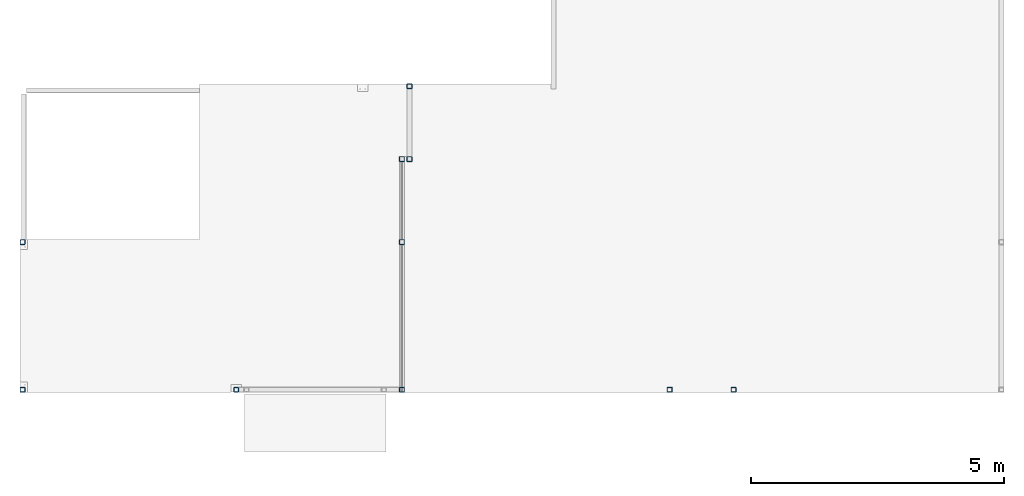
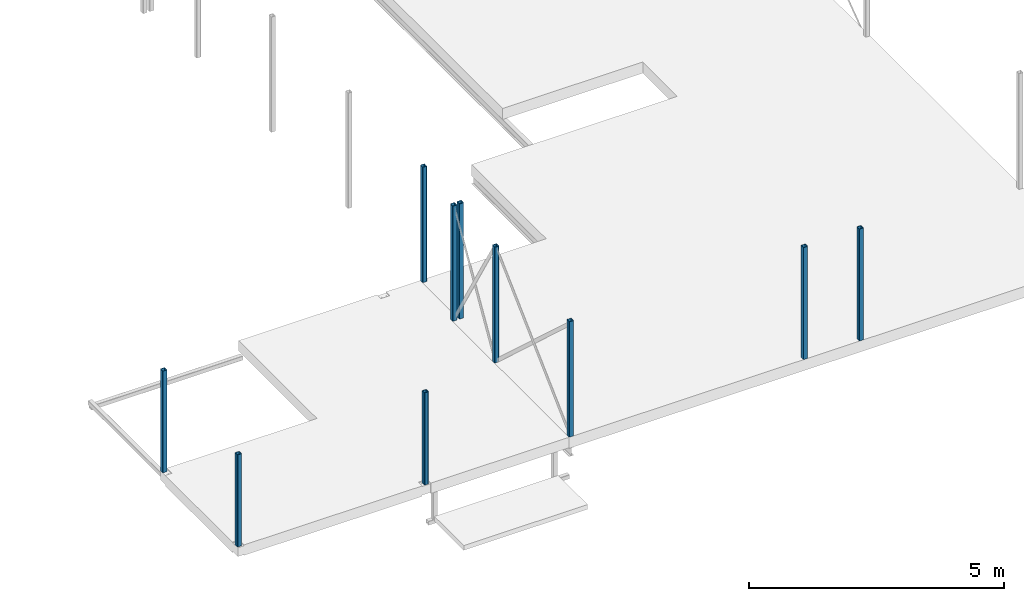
# One storey, part 1 of 7: 10 columns.
"""IFC2X3 building model written with IfcOpenShell, lengths in millimetres."""

import ifcopenshell
import ifcopenshell.guid

model = None  # the IFC model being written
_history = None  # IfcOwnerHistory: only IFC2X3 demands one
_inside = {}  # id of a spatial element -> (the spatial element, [elements in it])
_under = {}  # id of a project, library or spatial element -> (it, [spatial elements below it])
_declared = {}  # id of a project -> (the project, [libraries it declares])
_typed = {}  # id of a type object -> (the type object, [elements of that type])
_made_of = {}  # id of a material, layer set ... -> (it, [elements and type objects made of it])


def new_model(schema):
    """Start an empty IFC model of exactly this schema.

    Asked for "IFC4X3", IfcOpenShell would pick the latest addendum, in which some entities
    have other attributes; the version numbers below select the first issue.
    IFC2X3 requires an IfcOwnerHistory on every rooted entity: one is made here for all.
    """
    global model, _history
    if schema == "IFC4X3":
        model = ifcopenshell.file(schema_version=(4, 3, 0, 0))
    else:
        model = ifcopenshell.file(schema=schema)
    _inside.clear()
    _under.clear()
    _declared.clear()
    _typed.clear()
    _made_of.clear()
    _history = None
    if model.schema == "IFC2X3":
        org = make("IfcOrganization", Name="unknown")
        user = make(
            "IfcPersonAndOrganization",
            ThePerson=make("IfcPerson", FamilyName="unknown"),
            TheOrganization=org,
        )
        app = make(
            "IfcApplication",
            ApplicationDeveloper=org,
            Version="unknown",
            ApplicationFullName="unknown",
            ApplicationIdentifier="unknown",
        )
        _history = make(
            "IfcOwnerHistory",
            OwningUser=user,
            OwningApplication=app,
            ChangeAction="ADDED",
            CreationDate=0,
        )
    return model


def make(cls, **values):
    """One entity of the class cls with the attributes given. An attribute that is None is left unset."""
    return model.create_entity(
        cls, **{name: value for name, value in values.items() if value is not None}
    )


def entity(cls, *values):
    """Any entity or typed value of the class cls, its attributes in the order of the schema. None: left unset."""
    e = model.create_entity(cls)
    for i, value in enumerate(values):
        if value is not None:
            e[i] = value
    return e


def rooted(cls, **values):
    """An entity with a GlobalId (a new one), such as an element, a storey or a relation."""
    return make(cls, GlobalId=ifcopenshell.guid.new(), OwnerHistory=_history, **values)


def si_unit(unit_type, name, prefix=None):
    """IfcSIUnit, for example si_unit("LENGTHUNIT", "METRE", prefix="MILLI")."""
    return make("IfcSIUnit", UnitType=unit_type, Prefix=prefix, Name=name)


def converted_unit(unit_type, name, factor, base, dimensions=None, offset=None):
    """IfcConversionBasedUnit, such as the inch: factor (a typed value) times the base unit."""
    return make(
        "IfcConversionBasedUnit"
        if offset is None
        else "IfcConversionBasedUnitWithOffset",
        ConversionOffset=offset,
        Dimensions=None
        if dimensions is None
        else entity("IfcDimensionalExponents", *dimensions),
        UnitType=unit_type,
        Name=name,
        ConversionFactor=make(
            "IfcMeasureWithUnit", ValueComponent=factor, UnitComponent=base
        ),
    )


def derived_unit(unit_type, elements):
    """IfcDerivedUnit: a product of units, each with its exponent."""
    return make(
        "IfcDerivedUnit",
        Elements=[
            make("IfcDerivedUnitElement", Unit=unit, Exponent=power)
            for unit, power in elements
        ],
        UnitType=unit_type,
    )


def assignment(units):
    """IfcUnitAssignment: the units of a project."""
    return None if units is None else make("IfcUnitAssignment", Units=units)


def point(xyz):
    """IfcCartesianPoint."""
    return None if xyz is None else make("IfcCartesianPoint", Coordinates=xyz)


def direction(xyz):
    """IfcDirection."""
    return None if xyz is None else make("IfcDirection", DirectionRatios=xyz)


def frame(location, z_axis=None, x_axis=None):
    """IfcAxis2Placement3D, a coordinate frame: its origin and axes. An axis left out is left unset."""
    return make(
        "IfcAxis2Placement3D",
        Location=point(location),
        Axis=direction(z_axis),
        RefDirection=direction(x_axis),
    )


def frame_2d(location, x_axis=None):
    """IfcAxis2Placement2D, a coordinate frame in the plane: its origin and x axis."""
    return make(
        "IfcAxis2Placement2D", Location=point(location), RefDirection=direction(x_axis)
    )


def origin():
    """The frame at (0, 0, 0) with its axes left unset."""
    return frame((0.0, 0.0, 0.0))


def place(relative_to, where):
    """IfcLocalPlacement: puts the frame where relative to a parent placement (None: the world)."""
    return make(
        "IfcLocalPlacement", PlacementRelTo=relative_to, RelativePlacement=where
    )


def context(
    kind, dimensions, precision=None, world=None, true_north=None, identifier=None
):
    """IfcGeometricRepresentationContext, for example the 3D "Model" context."""
    return make(
        "IfcGeometricRepresentationContext",
        ContextIdentifier=identifier,
        ContextType=kind,
        CoordinateSpaceDimension=dimensions,
        Precision=precision,
        WorldCoordinateSystem=world,
        TrueNorth=true_north,
    )


def subcontext(parent, identifier, kind, view, scale=None):
    """IfcGeometricRepresentationSubContext, for example "Body" below "Model"."""
    return make(
        "IfcGeometricRepresentationSubContext",
        ContextIdentifier=identifier,
        ContextType=kind,
        ParentContext=parent,
        TargetScale=scale,
        TargetView=view,
    )


def project(units=None, contexts=None):
    """IfcProject with its units and contexts."""
    return rooted(
        "IfcProject",
        Name="project",
        RepresentationContexts=contexts,
        UnitsInContext=assignment(units),
    )


def spatial(cls, under=None, at=None, **own):
    """A site, building, storey or space (cls), placed at a placement, below another one or the project."""
    s = rooted(cls, ObjectPlacement=at, **own)
    if under is not None:
        _under.setdefault(under.id(), (under, []))[1].append(s)
    return s


def polyline(points):
    """IfcPolyline through the points."""
    return make("IfcPolyline", Points=[point(p) for p in points])


def circle_curve(where, radius):
    """IfcCircle in the frame where."""
    return make("IfcCircle", Position=where, Radius=radius)


def parameter(value):
    """IfcParameterValue: where a trimmed curve begins or ends, as a parameter of its basis curve."""
    return model.create_entity("IfcParameterValue", value)


def trimmed(basis, trim1, trim2, sense, master):
    """IfcTrimmedCurve: the piece of a basis curve between two trims."""
    return make(
        "IfcTrimmedCurve",
        BasisCurve=basis,
        Trim1=trim1,
        Trim2=trim2,
        SenseAgreement=sense,
        MasterRepresentation=master,
    )


def segment(curve, same_sense, transition):
    """IfcCompositeCurveSegment."""
    return make(
        "IfcCompositeCurveSegment",
        Transition=transition,
        SameSense=same_sense,
        ParentCurve=curve,
    )


def composite_curve(segments, self_intersect=None):
    """IfcCompositeCurve: segments joined end to end."""
    return make("IfcCompositeCurve", Segments=segments, SelfIntersect=self_intersect)


def outline(outer, holes=None, kind="AREA"):
    """IfcArbitraryClosedProfileDef: a profile drawn as a closed curve; with holes, ...WithVoids."""
    if holes is None:
        return make("IfcArbitraryClosedProfileDef", ProfileType=kind, OuterCurve=outer)
    return make(
        "IfcArbitraryProfileDefWithVoids",
        ProfileType=kind,
        OuterCurve=outer,
        InnerCurves=holes,
    )


def extrude(swept, where, along, depth):
    """IfcExtrudedAreaSolid: the profile swept, set in the frame where, extruded along a direction by depth."""
    return make(
        "IfcExtrudedAreaSolid",
        SweptArea=swept,
        Position=where,
        ExtrudedDirection=direction(along),
        Depth=depth,
    )


def shape(context_of_items, identifier, shape_type, items):
    """IfcShapeRepresentation: the items that make up one representation, for example the "Body"."""
    return make(
        "IfcShapeRepresentation",
        ContextOfItems=context_of_items,
        RepresentationIdentifier=identifier,
        RepresentationType=shape_type,
        Items=items,
    )


def source(mapping_origin, context_of_items, identifier, shape_type, items):
    """IfcRepresentationMap: a shape defined once, which mapped items show again and again."""
    return make(
        "IfcRepresentationMap",
        MappingOrigin=mapping_origin,
        MappedRepresentation=shape(context_of_items, identifier, shape_type, items),
    )


def transform(
    local_origin,
    x_axis=None,
    y_axis=None,
    z_axis=None,
    scale=None,
    scale2=None,
    scale3=None,
    uniform=True,
):
    """IfcCartesianTransformationOperator3D, or its non-uniform kind. x_axis, y_axis, z_axis: its Axis1, 2, 3."""
    if uniform:
        return make(
            "IfcCartesianTransformationOperator3D",
            Axis1=direction(x_axis),
            Axis2=direction(y_axis),
            LocalOrigin=point(local_origin),
            Scale=scale,
            Axis3=direction(z_axis),
        )
    return make(
        "IfcCartesianTransformationOperator3DnonUniform",
        Axis1=direction(x_axis),
        Axis2=direction(y_axis),
        LocalOrigin=point(local_origin),
        Scale=scale,
        Axis3=direction(z_axis),
        Scale2=scale2,
        Scale3=scale3,
    )


def mapped(mapping_source, mapping_target):
    """IfcMappedItem: shows the shape of a source again, moved by a transform."""
    return make(
        "IfcMappedItem", MappingSource=mapping_source, MappingTarget=mapping_target
    )


def material(Name=None, Category=None):
    """IfcMaterial."""
    return make("IfcMaterial", Name=Name, Category=Category)


def made_of(thing, what):
    """Note that an element or type object is made of a material, layer set ...; save() writes the relation."""
    if what is not None:
        _made_of.setdefault(what.id(), (what, []))[1].append(thing)
    return thing


def type_object(cls, material=None, **own):
    """A type object (cls), such as IfcWallType, which elements share."""
    return made_of(rooted(cls, **own), material)


def type_shapes(of_type, sources):
    """Give a type object the sources (RepresentationMaps) that its elements show as mapped items."""
    of_type.RepresentationMaps = sources


def element(
    cls,
    number,
    at=None,
    inside=None,
    cuts=None,
    type_object=None,
    material=None,
    context=None,
    identifier="Body",
    shape_type=None,
    held_by="IfcProductDefinitionShape",
    body=None,
    shapes=None,
    **own,
):
    """One element of the class cls, such as IfcWall. Its Tag is "e" and its number.

    at: its placement. inside: the storey or other place that contains it. cuts: it is an
    opening in that element (IfcRelVoidsElement). A single representation is given by context,
    identifier, shape_type and body (its items); several are given by shapes. held_by: the class
    of the entity that holds the representations. save() writes the other relations.
    """
    e = rooted(cls, Tag="e%d" % number, ObjectPlacement=at, **own)
    if body is not None:
        shapes = [shape(context, identifier, shape_type, body)]
    if shapes is not None:
        e.Representation = make(held_by, Representations=shapes)
    if inside is not None:
        _inside.setdefault(inside.id(), (inside, []))[1].append(e)
    if cuts is not None:
        rooted(
            "IfcRelVoidsElement", RelatingBuildingElement=cuts, RelatedOpeningElement=e
        )
    if type_object is not None:
        _typed.setdefault(type_object.id(), (type_object, []))[1].append(e)
    return made_of(e, material)


def aggregate(whole, parts):
    """IfcRelAggregates: a whole, such as a stair, and the parts it consists of."""
    return rooted("IfcRelAggregates", RelatingObject=whole, RelatedObjects=parts)


def save(model, path):
    """Write the relations noted so far, then the file.

    IfcRelAggregates (storeys below a building ...), IfcRelContainedInSpatialStructure (elements
    in a storey), IfcRelDefinesByType, IfcRelAssociatesMaterial and IfcRelDeclares: one each for
    every whole, place, type object, material and project.
    """
    for whole, parts in _under.values():
        aggregate(whole, parts)
    for where, things in _inside.values():
        rooted(
            "IfcRelContainedInSpatialStructure",
            RelatedElements=things,
            RelatingStructure=where,
        )
    for kind, things in _typed.values():
        rooted("IfcRelDefinesByType", RelatedObjects=things, RelatingType=kind)
    for what, things in _made_of.values():
        rooted("IfcRelAssociatesMaterial", RelatedObjects=things, RelatingMaterial=what)
    for by, libraries in _declared.values():
        rooted("IfcRelDeclares", RelatingContext=by, RelatedDefinitions=libraries)
    model.write(path)


model = new_model("IFC2X3")

# Units and contexts
model_context = context("Model", 3, precision=0.01, world=origin(), true_north=direction((6.12303176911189e-17, 1.0)))
body_context = subcontext(model_context, "Body", "Model", "MODEL_VIEW")
ifc_project = project(units=[si_unit("LENGTHUNIT", "METRE", prefix="MILLI"), si_unit("AREAUNIT", "SQUARE_METRE"), si_unit("VOLUMEUNIT", "CUBIC_METRE"), converted_unit("PLANEANGLEUNIT", "DEGREE", entity("IfcRatioMeasure", 0.0174532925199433), si_unit("PLANEANGLEUNIT", "RADIAN"), dimensions=[0, 0, 0, 0, 0, 0, 0]), si_unit("MASSUNIT", "GRAM", prefix="KILO"), derived_unit("MASSDENSITYUNIT", [(si_unit("MASSUNIT", "GRAM", prefix="KILO"), 1), (si_unit("LENGTHUNIT", "METRE"), -3)]), si_unit("TIMEUNIT", "SECOND"), si_unit("FREQUENCYUNIT", "HERTZ"), si_unit("THERMODYNAMICTEMPERATUREUNIT", "DEGREE_CELSIUS"), derived_unit("THERMALTRANSMITTANCEUNIT", [(si_unit("MASSUNIT", "GRAM", prefix="KILO"), 1), (si_unit("THERMODYNAMICTEMPERATUREUNIT", "KELVIN"), -1), (si_unit("TIMEUNIT", "SECOND"), -3)]), derived_unit("VOLUMETRICFLOWRATEUNIT", [(si_unit("LENGTHUNIT", "METRE"), 3), (si_unit("TIMEUNIT", "SECOND"), -1)]), si_unit("ELECTRICCURRENTUNIT", "AMPERE"), si_unit("ELECTRICVOLTAGEUNIT", "VOLT"), si_unit("POWERUNIT", "WATT"), si_unit("FORCEUNIT", "NEWTON", prefix="KILO"), si_unit("ILLUMINANCEUNIT", "LUX"), si_unit("LUMINOUSFLUXUNIT", "LUMEN"), si_unit("LUMINOUSINTENSITYUNIT", "CANDELA"), derived_unit("USERDEFINED", [(si_unit("MASSUNIT", "GRAM", prefix="KILO"), -1), (si_unit("LENGTHUNIT", "METRE"), -2), (si_unit("TIMEUNIT", "SECOND"), 3), (si_unit("LUMINOUSFLUXUNIT", "LUMEN"), 1)]), derived_unit("LINEARVELOCITYUNIT", [(si_unit("LENGTHUNIT", "METRE"), 1), (si_unit("TIMEUNIT", "SECOND"), -1)]), si_unit("PRESSUREUNIT", "PASCAL"), derived_unit("USERDEFINED", [(si_unit("LENGTHUNIT", "METRE"), -2), (si_unit("MASSUNIT", "GRAM", prefix="KILO"), 1), (si_unit("TIMEUNIT", "SECOND"), -2)])], contexts=[model_context])

# Site, building, storey
site_placement = place(None, frame((0.0, 0.0, 101000.0)))
site = spatial("IfcSite", under=ifc_project, at=site_placement, Name="Default", CompositionType="ELEMENT")
building_placement = place(site_placement, origin())
building = spatial("IfcBuilding", under=site, at=building_placement, CompositionType="ELEMENT")
storey_placement = place(building_placement, frame((0.0, 0.0, 3150.0)))
storey = spatial("IfcBuildingStorey", under=building, at=storey_placement, Name="02", CompositionType="ELEMENT", Elevation=3149.9999999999)

# Columns
ifc_material = material(Name="S355")
column_type_1 = type_object("IfcColumnType", Name="HUP 100x100x6.3", PredefinedType="COLUMN", material=ifc_material)
shared_shape_1 = source(origin(), body_context, "Body", "SweptSolid", [
    extrude(outline(composite_curve([segment(polyline([(-37.4000000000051, -50.0), (37.4000000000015, -50.0)]), True, "CONTINUOUS"), segment(trimmed(circle_curve(frame_2d((37.4000000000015, -37.3999999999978), x_axis=(-1.0, 0.0)), 12.6000000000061), [parameter(90.0000000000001)], [parameter(180.0)], True, "PARAMETER"), True, "CONTINUOUS"), segment(polyline([(50.0, -37.4000000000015), (50.0, 37.3999999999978)]), True, "CONTINUOUS"), segment(trimmed(circle_curve(frame_2d((37.4000000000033, 37.3999999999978), x_axis=(-1.0, 0.0)), 12.6000000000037), [parameter(180.0)], [parameter(270.0)], True, "PARAMETER"), True, "CONTINUOUS"), segment(polyline([(37.4000000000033, 50.0), (-37.4000000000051, 50.0)]), True, "CONTINUOUS"), segment(trimmed(circle_curve(frame_2d((-37.4000000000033, 37.4000000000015), x_axis=(-1.0, 0.0)), 12.6000000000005), [parameter(270.0)], [parameter(360.0)], True, "PARAMETER"), True, "CONTINUOUS"), segment(polyline([(-50.0, 37.3999999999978), (-50.0, -37.4000000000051)]), True, "CONTINUOUS"), segment(trimmed(circle_curve(frame_2d((-37.4000000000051, -37.4000000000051), x_axis=(-1.0, 0.0)), 12.5999999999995), [parameter(360.0)], [parameter(89.9999999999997)], True, "PARAMETER"), True, "CONTINUOUS")], self_intersect=False), holes=[composite_curve([segment(trimmed(circle_curve(frame_2d((-37.4000000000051, -37.4000000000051), x_axis=(-1.0, 0.0)), 6.2999999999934), [parameter(0.0)], [parameter(90.0)], True, "PARAMETER"), False, "CONTINUOUS"), segment(polyline([(-43.7000000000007, -37.4000000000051), (-43.7000000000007, 37.4000000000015)]), True, "CONTINUOUS"), segment(trimmed(circle_curve(frame_2d((-37.4000000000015, 37.4000000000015), x_axis=(-1.0, 0.0)), 6.29999999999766), [parameter(270.0)], [parameter(360.0)], True, "PARAMETER"), False, "CONTINUOUS"), segment(polyline([(-37.4000000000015, 43.6999999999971), (37.3999999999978, 43.6999999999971)]), True, "CONTINUOUS"), segment(trimmed(circle_curve(frame_2d((37.3999999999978, 37.3999999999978), x_axis=(-1.0, 0.0)), 6.30000000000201), [parameter(180.0)], [parameter(270.0)], True, "PARAMETER"), False, "CONTINUOUS"), segment(polyline([(43.7000000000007, 37.3999999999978), (43.7000000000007, -37.4000000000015)]), True, "CONTINUOUS"), segment(trimmed(circle_curve(frame_2d((37.4000000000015, -37.3999999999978), x_axis=(-1.0, 0.0)), 6.30000000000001), [parameter(90.0000000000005)], [parameter(180.0)], True, "PARAMETER"), False, "CONTINUOUS"), segment(polyline([(37.4000000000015, -43.7000000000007), (-37.4000000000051, -43.7000000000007)]), True, "CONTINUOUS")], self_intersect=False)]), frame((11261.2644969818, 23497.9507529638, 3150.0), z_axis=(0.0, 0.0, 1.0), x_axis=(-1.0, 0.0, 0.0)), (0.0, 0.0, 1.0), 2755.0),
])
type_shapes(column_type_1, [shared_shape_1])
column_1_placement = place(storey_placement, frame((0.0, 0.0, -3150.0)))
element("IfcColumn", 1, at=column_1_placement, inside=storey, type_object=column_type_1, material=ifc_material, Name="Søyle HUP:HUP 100x100x6.3", ObjectType="HUP 100x100x6.3", context=body_context, shape_type="MappedRepresentation", body=[
    mapped(shared_shape_1, transform((0.0, 0.0, 0.0), scale=1.0)),
])
column_type_2 = type_object("IfcColumnType", Name="HUP 100x100x6.3", PredefinedType="COLUMN", material=ifc_material)
shared_shape_2 = source(origin(), body_context, "Body", "SweptSolid", [
    extrude(outline(composite_curve([segment(polyline([(-37.4000000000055, -50.0), (37.4000000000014, -50.0)]), True, "CONTINUOUS"), segment(trimmed(circle_curve(frame_2d((37.4000000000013, -37.3999999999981), x_axis=(-1.0, 0.0)), 12.6000000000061), [parameter(90.0000000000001)], [parameter(180.0)], True, "PARAMETER"), True, "CONTINUOUS"), segment(polyline([(50.0, -37.3999999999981), (50.0, 37.4000000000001)]), True, "CONTINUOUS"), segment(trimmed(circle_curve(frame_2d((37.4000000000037, 37.4000000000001), x_axis=(-1.0, 0.0)), 12.6000000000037), [parameter(180.0)], [parameter(270.0)], True, "PARAMETER"), True, "CONTINUOUS"), segment(polyline([(37.4000000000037, 50.0), (-37.4000000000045, 50.0)]), True, "CONTINUOUS"), segment(trimmed(circle_curve(frame_2d((-37.4000000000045, 37.4000000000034), x_axis=(-1.0, 0.0)), 12.6000000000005), [parameter(270.0)], [parameter(360.0)], True, "PARAMETER"), True, "CONTINUOUS"), segment(polyline([(-50.0, 37.4000000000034), (-50.0, -37.4000000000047)]), True, "CONTINUOUS"), segment(trimmed(circle_curve(frame_2d((-37.4000000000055, -37.4000000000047), x_axis=(-1.0, 0.0)), 12.5999999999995), [parameter(360.0)], [parameter(89.9999999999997)], True, "PARAMETER"), True, "CONTINUOUS")], self_intersect=False), holes=[composite_curve([segment(trimmed(circle_curve(frame_2d((-37.4000000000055, -37.4000000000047), x_axis=(-1.0, 0.0)), 6.2999999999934), [parameter(0.0)], [parameter(90.0)], True, "PARAMETER"), False, "CONTINUOUS"), segment(polyline([(-43.6999999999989, -37.4000000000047), (-43.6999999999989, 37.4000000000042)]), True, "CONTINUOUS"), segment(trimmed(circle_curve(frame_2d((-37.4000000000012, 37.4000000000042), x_axis=(-1.0, 0.0)), 6.29999999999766), [parameter(270.0)], [parameter(360.0)], True, "PARAMETER"), False, "CONTINUOUS"), segment(polyline([(-37.4000000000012, 43.7000000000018), (37.3999999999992, 43.7000000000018)]), True, "CONTINUOUS"), segment(trimmed(circle_curve(frame_2d((37.3999999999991, 37.3999999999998), x_axis=(-1.0, 0.0)), 6.30000000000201), [parameter(180.0)], [parameter(270.0)], True, "PARAMETER"), False, "CONTINUOUS"), segment(polyline([(43.7000000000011, 37.3999999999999), (43.7000000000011, -37.3999999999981)]), True, "CONTINUOUS"), segment(trimmed(circle_curve(frame_2d((37.4000000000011, -37.3999999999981), x_axis=(-1.0, 0.0)), 6.30000000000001), [parameter(90.0000000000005)], [parameter(180.0)], True, "PARAMETER"), False, "CONTINUOUS"), segment(polyline([(37.4000000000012, -43.6999999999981), (-37.4000000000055, -43.6999999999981)]), True, "CONTINUOUS")], self_intersect=False)]), frame((0.0, 0.0, 3150.0), z_axis=(0.0, 0.0, 1.0), x_axis=(-1.0, 0.0, 0.0)), (0.0, 0.0, 1.0), 2765.0),
])
type_shapes(column_type_2, [shared_shape_2])
column_2_placement = place(storey_placement, frame((11261.2644969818, 26417.9507529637, -3150.0)))
element("IfcColumn", 2, at=column_2_placement, inside=storey, type_object=column_type_2, material=ifc_material, Name="Søyle HUP:HUP 100x100x6.3", ObjectType="HUP 100x100x6.3", context=body_context, shape_type="MappedRepresentation", body=[
    mapped(shared_shape_2, transform((0.0, 0.0, 0.0), scale=1.0)),
])
column_type_3 = type_object("IfcColumnType", Name="HUP 100x100x6.3", PredefinedType="COLUMN", material=ifc_material)
shared_shape_3 = source(origin(), body_context, "Body", "SweptSolid", [
    extrude(outline(composite_curve([segment(polyline([(-37.4000000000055, -50.0), (37.4000000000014, -50.0)]), True, "CONTINUOUS"), segment(trimmed(circle_curve(frame_2d((37.4000000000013, -37.3999999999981), x_axis=(-1.0, 0.0)), 12.6000000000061), [parameter(90.0000000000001)], [parameter(180.0)], True, "PARAMETER"), True, "CONTINUOUS"), segment(polyline([(50.0, -37.3999999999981), (50.0, 37.4000000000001)]), True, "CONTINUOUS"), segment(trimmed(circle_curve(frame_2d((37.4000000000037, 37.4000000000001), x_axis=(-1.0, 0.0)), 12.6000000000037), [parameter(180.0)], [parameter(270.0)], True, "PARAMETER"), True, "CONTINUOUS"), segment(polyline([(37.4000000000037, 50.0), (-37.4000000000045, 50.0)]), True, "CONTINUOUS"), segment(trimmed(circle_curve(frame_2d((-37.4000000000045, 37.4000000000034), x_axis=(-1.0, 0.0)), 12.6000000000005), [parameter(270.0)], [parameter(360.0)], True, "PARAMETER"), True, "CONTINUOUS"), segment(polyline([(-50.0, 37.4000000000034), (-50.0, -37.4000000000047)]), True, "CONTINUOUS"), segment(trimmed(circle_curve(frame_2d((-37.4000000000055, -37.4000000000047), x_axis=(-1.0, 0.0)), 12.5999999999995), [parameter(360.0)], [parameter(89.9999999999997)], True, "PARAMETER"), True, "CONTINUOUS")], self_intersect=False), holes=[composite_curve([segment(trimmed(circle_curve(frame_2d((-37.4000000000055, -37.4000000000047), x_axis=(-1.0, 0.0)), 6.2999999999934), [parameter(0.0)], [parameter(90.0)], True, "PARAMETER"), False, "CONTINUOUS"), segment(polyline([(-43.6999999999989, -37.4000000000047), (-43.6999999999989, 37.4000000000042)]), True, "CONTINUOUS"), segment(trimmed(circle_curve(frame_2d((-37.4000000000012, 37.4000000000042), x_axis=(-1.0, 0.0)), 6.29999999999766), [parameter(270.0)], [parameter(360.0)], True, "PARAMETER"), False, "CONTINUOUS"), segment(polyline([(-37.4000000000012, 43.7000000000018), (37.3999999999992, 43.7000000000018)]), True, "CONTINUOUS"), segment(trimmed(circle_curve(frame_2d((37.3999999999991, 37.3999999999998), x_axis=(-1.0, 0.0)), 6.30000000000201), [parameter(180.0)], [parameter(270.0)], True, "PARAMETER"), False, "CONTINUOUS"), segment(polyline([(43.7000000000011, 37.3999999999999), (43.7000000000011, -37.3999999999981)]), True, "CONTINUOUS"), segment(trimmed(circle_curve(frame_2d((37.4000000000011, -37.3999999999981), x_axis=(-1.0, 0.0)), 6.30000000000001), [parameter(90.0000000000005)], [parameter(180.0)], True, "PARAMETER"), False, "CONTINUOUS"), segment(polyline([(37.4000000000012, -43.6999999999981), (-37.4000000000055, -43.6999999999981)]), True, "CONTINUOUS")], self_intersect=False)]), frame((0.0, 0.0, 3150.0), z_axis=(0.0, 0.0, 1.0), x_axis=(-1.0, 0.0, 0.0)), (0.0, 0.0, 1.0), 2755.0),
])
type_shapes(column_type_3, [shared_shape_3])
for number, where, name in (
    (3, (11261.2644969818, 28058.4336358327, -3150.0), "Søyle HUP:HUP 100x100x6.3"),
    (4, (11411.2644969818, 28058.4336358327, -3150.0), "Søyle HUP:HUP 100x100x6.3"),
    (5, (11411.2644969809, 29497.9507529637, -3150.0), "Søyle HUP:HUP 100x100x6.3"),
):
    element("IfcColumn", number, at=place(storey_placement, frame(where)), inside=storey, type_object=column_type_3, material=ifc_material, Name=name, ObjectType="HUP 100x100x6.3", context=body_context, shape_type="MappedRepresentation", body=[
        mapped(shared_shape_3, transform((0.0, 0.0, 0.0), scale=1.0)),
    ])
column_type_4 = type_object("IfcColumnType", Name="HUP 100x100x6.3", PredefinedType="COLUMN", material=ifc_material)
shared_shape_4 = source(origin(), body_context, "Body", "SweptSolid", [
    extrude(outline(composite_curve([segment(polyline([(-37.4000000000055, -50.0), (37.4000000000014, -50.0)]), True, "CONTINUOUS"), segment(trimmed(circle_curve(frame_2d((37.4000000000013, -37.3999999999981), x_axis=(-1.0, 0.0)), 12.6000000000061), [parameter(90.0000000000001)], [parameter(180.0)], True, "PARAMETER"), True, "CONTINUOUS"), segment(polyline([(50.0, -37.3999999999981), (50.0, 37.4000000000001)]), True, "CONTINUOUS"), segment(trimmed(circle_curve(frame_2d((37.4000000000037, 37.4000000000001), x_axis=(-1.0, 0.0)), 12.6000000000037), [parameter(180.0)], [parameter(270.0)], True, "PARAMETER"), True, "CONTINUOUS"), segment(polyline([(37.4000000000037, 50.0), (-37.4000000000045, 50.0)]), True, "CONTINUOUS"), segment(trimmed(circle_curve(frame_2d((-37.4000000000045, 37.4000000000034), x_axis=(-1.0, 0.0)), 12.6000000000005), [parameter(270.0)], [parameter(360.0)], True, "PARAMETER"), True, "CONTINUOUS"), segment(polyline([(-50.0, 37.4000000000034), (-50.0, -37.4000000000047)]), True, "CONTINUOUS"), segment(trimmed(circle_curve(frame_2d((-37.4000000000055, -37.4000000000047), x_axis=(-1.0, 0.0)), 12.5999999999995), [parameter(360.0)], [parameter(89.9999999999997)], True, "PARAMETER"), True, "CONTINUOUS")], self_intersect=False), holes=[composite_curve([segment(trimmed(circle_curve(frame_2d((-37.4000000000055, -37.4000000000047), x_axis=(-1.0, 0.0)), 6.2999999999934), [parameter(0.0)], [parameter(90.0)], True, "PARAMETER"), False, "CONTINUOUS"), segment(polyline([(-43.6999999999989, -37.4000000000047), (-43.6999999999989, 37.4000000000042)]), True, "CONTINUOUS"), segment(trimmed(circle_curve(frame_2d((-37.4000000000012, 37.4000000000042), x_axis=(-1.0, 0.0)), 6.29999999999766), [parameter(270.0)], [parameter(360.0)], True, "PARAMETER"), False, "CONTINUOUS"), segment(polyline([(-37.4000000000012, 43.7000000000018), (37.3999999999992, 43.7000000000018)]), True, "CONTINUOUS"), segment(trimmed(circle_curve(frame_2d((37.3999999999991, 37.3999999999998), x_axis=(-1.0, 0.0)), 6.30000000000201), [parameter(180.0)], [parameter(270.0)], True, "PARAMETER"), False, "CONTINUOUS"), segment(polyline([(43.7000000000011, 37.3999999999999), (43.7000000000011, -37.3999999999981)]), True, "CONTINUOUS"), segment(trimmed(circle_curve(frame_2d((37.4000000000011, -37.3999999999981), x_axis=(-1.0, 0.0)), 6.30000000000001), [parameter(90.0000000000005)], [parameter(180.0)], True, "PARAMETER"), False, "CONTINUOUS"), segment(polyline([(37.4000000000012, -43.6999999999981), (-37.4000000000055, -43.6999999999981)]), True, "CONTINUOUS")], self_intersect=False)]), frame((0.0, 0.0, 3150.0), z_axis=(0.0, 0.0, 1.0), x_axis=(-1.0, 0.0, 0.0)), (0.0, 0.0, 1.0), 2675.0),
])
type_shapes(column_type_4, [shared_shape_4])
for number, where, name in (
    (6, (16555.2902080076, 23497.9507529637, -3150.0), "Søyle HUP:HUP 100x100x6.3"),
    (7, (17817.2389636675, 23497.9507529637, -3150.0), "Søyle HUP:HUP 100x100x6.3"),
):
    element("IfcColumn", number, at=place(storey_placement, frame(where)), inside=storey, type_object=column_type_4, material=ifc_material, Name=name, ObjectType="HUP 100x100x6.3", context=body_context, shape_type="MappedRepresentation", body=[
        mapped(shared_shape_4, transform((0.0, 0.0, 0.0), scale=1.0)),
    ])
column_type_5 = type_object("IfcColumnType", Name="HUP 100x100x10", PredefinedType="COLUMN", material=ifc_material)
shared_shape_5 = source(origin(), body_context, "Body", "SweptSolid", [
    extrude(outline(composite_curve([segment(polyline([(-30.0, -50.0), (30.0, -50.0)]), True, "CONTINUOUS"), segment(trimmed(circle_curve(frame_2d((30.0, -30.0), x_axis=(-1.0, 0.0)), 20.0000000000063), [parameter(90.0000000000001)], [parameter(180.0)], True, "PARAMETER"), True, "CONTINUOUS"), segment(polyline([(50.0, -30.0), (50.0, 30.0)]), True, "CONTINUOUS"), segment(trimmed(circle_curve(frame_2d((30.0, 30.0), x_axis=(-1.0, 0.0)), 20.0000000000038), [parameter(180.0)], [parameter(270.0)], True, "PARAMETER"), True, "CONTINUOUS"), segment(polyline([(30.0, 50.0), (-30.0, 50.0)]), True, "CONTINUOUS"), segment(trimmed(circle_curve(frame_2d((-30.0, 30.0), x_axis=(-1.0, 0.0)), 20.0000000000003), [parameter(270.0)], [parameter(360.0)], True, "PARAMETER"), True, "CONTINUOUS"), segment(polyline([(-50.0, 30.0), (-50.0, -30.0)]), True, "CONTINUOUS"), segment(trimmed(circle_curve(frame_2d((-30.0, -30.0), x_axis=(-1.0, 0.0)), 19.9999999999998), [parameter(360.0)], [parameter(89.9999999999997)], True, "PARAMETER"), True, "CONTINUOUS")], self_intersect=False), holes=[composite_curve([segment(trimmed(circle_curve(frame_2d((-30.0, -30.0), x_axis=(-1.0, 0.0)), 9.99999999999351), [parameter(0.0)], [parameter(90.0)], True, "PARAMETER"), False, "CONTINUOUS"), segment(polyline([(-40.0, -30.0), (-40.0, 30.0)]), True, "CONTINUOUS"), segment(trimmed(circle_curve(frame_2d((-30.0, 30.0), x_axis=(-1.0, 0.0)), 9.99999999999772), [parameter(270.0)], [parameter(0.0)], True, "PARAMETER"), False, "CONTINUOUS"), segment(polyline([(-30.0, 40.0), (30.0, 40.0)]), True, "CONTINUOUS"), segment(trimmed(circle_curve(frame_2d((30.0, 30.0), x_axis=(-1.0, 0.0)), 10.000000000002), [parameter(180.0)], [parameter(270.0)], True, "PARAMETER"), False, "CONTINUOUS"), segment(polyline([(40.0, 30.0), (40.0, -30.0)]), True, "CONTINUOUS"), segment(trimmed(circle_curve(frame_2d((30.0, -30.0), x_axis=(-1.0, 0.0)), 10.0), [parameter(90.0000000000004)], [parameter(180.0)], True, "PARAMETER"), False, "CONTINUOUS"), segment(polyline([(30.0, -40.0), (-30.0, -40.0)]), True, "CONTINUOUS")], self_intersect=False)]), frame((0.0, 0.0, 3150.0), z_axis=(0.0, 0.0, 1.0), x_axis=(-1.0, 0.0, 0.0)), (0.0, 0.0, 1.0), 2200.0),
])
type_shapes(column_type_5, [shared_shape_5])
column_3_placement = place(storey_placement, frame((7986.26449698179, 23497.9507529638, -3150.0)))
element("IfcColumn", 8, at=column_3_placement, inside=storey, type_object=column_type_5, material=ifc_material, Name="Søyle HUP:HUP 100x100x10", ObjectType="HUP 100x100x10", context=body_context, shape_type="MappedRepresentation", body=[
    mapped(shared_shape_5, transform((0.0, 0.0, 0.0), scale=1.0)),
])
column_type_6 = type_object("IfcColumnType", Name="HUP 100x100x8", PredefinedType="COLUMN", material=ifc_material)
shared_shape_6 = source(origin(), body_context, "Body", "SweptSolid", [
    extrude(outline(composite_curve([segment(polyline([(-34.0, -50.0), (34.0, -50.0)]), True, "CONTINUOUS"), segment(trimmed(circle_curve(frame_2d((34.0, -34.0), x_axis=(-1.0, 0.0)), 15.9999999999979), [parameter(90.0000000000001)], [parameter(180.0)], True, "PARAMETER"), True, "CONTINUOUS"), segment(polyline([(50.0, -34.0), (50.0, 34.0)]), True, "CONTINUOUS"), segment(trimmed(circle_curve(frame_2d((34.0, 34.0), x_axis=(-1.0, 0.0)), 16.0000000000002), [parameter(180.0)], [parameter(270.0)], True, "PARAMETER"), True, "CONTINUOUS"), segment(polyline([(34.0, 50.0), (-34.0, 50.0)]), True, "CONTINUOUS"), segment(trimmed(circle_curve(frame_2d((-34.0, 34.0), x_axis=(-1.0, 0.0)), 16.0000000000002), [parameter(270.0)], [parameter(360.0)], True, "PARAMETER"), True, "CONTINUOUS"), segment(polyline([(-50.0, 34.0), (-50.0, -34.0)]), True, "CONTINUOUS"), segment(trimmed(circle_curve(frame_2d((-34.0, -34.0), x_axis=(-1.0, 0.0)), 15.9999999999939), [parameter(360.0)], [parameter(89.9999999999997)], True, "PARAMETER"), True, "CONTINUOUS")], self_intersect=False), holes=[composite_curve([segment(trimmed(circle_curve(frame_2d((-34.0, -34.0), x_axis=(-1.0, 0.0)), 7.99999999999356), [parameter(0.0)], [parameter(90.0)], True, "PARAMETER"), False, "CONTINUOUS"), segment(polyline([(-42.0, -34.0), (-42.0, 34.0)]), True, "CONTINUOUS"), segment(trimmed(circle_curve(frame_2d((-34.0, 34.0), x_axis=(-1.0, 0.0)), 7.99999999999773), [parameter(270.0)], [parameter(5.08888749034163e-14)], True, "PARAMETER"), False, "CONTINUOUS"), segment(polyline([(-34.0, 42.0), (34.0, 42.0)]), True, "CONTINUOUS"), segment(trimmed(circle_curve(frame_2d((34.0, 34.0), x_axis=(-1.0, 0.0)), 8.00000000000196), [parameter(180.0)], [parameter(270.0)], True, "PARAMETER"), False, "CONTINUOUS"), segment(polyline([(42.0, 34.0), (42.0, -34.0)]), True, "CONTINUOUS"), segment(trimmed(circle_curve(frame_2d((34.0, -34.0), x_axis=(-1.0, 0.0)), 8.00000000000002), [parameter(90.0000000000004)], [parameter(180.0)], True, "PARAMETER"), False, "CONTINUOUS"), segment(polyline([(34.0, -42.0), (-34.0, -42.0)]), True, "CONTINUOUS")], self_intersect=False)]), frame((0.0, 0.0, 3150.0), z_axis=(0.0, 0.0, 1.0), x_axis=(-1.0, 0.0, 0.0)), (0.0, 0.0, 1.0), 2200.0),
])
type_shapes(column_type_6, [shared_shape_6])
column_4_placement = place(storey_placement, frame((3761.26449698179, 23497.9507529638, -3150.0)))
element("IfcColumn", 9, at=column_4_placement, inside=storey, type_object=column_type_6, material=ifc_material, Name="Søyle HUP:HUP 100x100x8", ObjectType="HUP 100x100x8", context=body_context, shape_type="MappedRepresentation", body=[
    mapped(shared_shape_6, transform((0.0, 0.0, 0.0), scale=1.0)),
])
column_type_7 = type_object("IfcColumnType", Name="HUP 100x100x8", PredefinedType="COLUMN", material=ifc_material)
shared_shape_7 = source(origin(), body_context, "Body", "SweptSolid", [
    extrude(outline(composite_curve([segment(polyline([(-34.0, -50.0), (34.0, -50.0)]), True, "CONTINUOUS"), segment(trimmed(circle_curve(frame_2d((34.0, -34.0), x_axis=(-1.0, 0.0)), 15.9999999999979), [parameter(90.0000000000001)], [parameter(180.0)], True, "PARAMETER"), True, "CONTINUOUS"), segment(polyline([(50.0, -34.0), (50.0, 34.0)]), True, "CONTINUOUS"), segment(trimmed(circle_curve(frame_2d((34.0, 34.0), x_axis=(-1.0, 0.0)), 16.0000000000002), [parameter(180.0)], [parameter(270.0)], True, "PARAMETER"), True, "CONTINUOUS"), segment(polyline([(34.0, 50.0), (-34.0, 50.0)]), True, "CONTINUOUS"), segment(trimmed(circle_curve(frame_2d((-34.0, 34.0), x_axis=(-1.0, 0.0)), 16.0000000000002), [parameter(270.0)], [parameter(360.0)], True, "PARAMETER"), True, "CONTINUOUS"), segment(polyline([(-50.0, 34.0), (-50.0, -34.0)]), True, "CONTINUOUS"), segment(trimmed(circle_curve(frame_2d((-34.0, -34.0), x_axis=(-1.0, 0.0)), 15.9999999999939), [parameter(360.0)], [parameter(89.9999999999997)], True, "PARAMETER"), True, "CONTINUOUS")], self_intersect=False), holes=[composite_curve([segment(trimmed(circle_curve(frame_2d((-34.0, -34.0), x_axis=(-1.0, 0.0)), 7.99999999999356), [parameter(0.0)], [parameter(90.0)], True, "PARAMETER"), False, "CONTINUOUS"), segment(polyline([(-42.0, -34.0), (-42.0, 34.0)]), True, "CONTINUOUS"), segment(trimmed(circle_curve(frame_2d((-34.0, 34.0), x_axis=(-1.0, 0.0)), 7.99999999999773), [parameter(270.0)], [parameter(5.08888749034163e-14)], True, "PARAMETER"), False, "CONTINUOUS"), segment(polyline([(-34.0, 42.0), (34.0, 42.0)]), True, "CONTINUOUS"), segment(trimmed(circle_curve(frame_2d((34.0, 34.0), x_axis=(-1.0, 0.0)), 8.00000000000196), [parameter(180.0)], [parameter(270.0)], True, "PARAMETER"), False, "CONTINUOUS"), segment(polyline([(42.0, 34.0), (42.0, -34.0)]), True, "CONTINUOUS"), segment(trimmed(circle_curve(frame_2d((34.0, -34.0), x_axis=(-1.0, 0.0)), 8.00000000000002), [parameter(90.0000000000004)], [parameter(180.0)], True, "PARAMETER"), False, "CONTINUOUS"), segment(polyline([(34.0, -42.0), (-34.0, -42.0)]), True, "CONTINUOUS")], self_intersect=False)]), frame((3761.2644969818, 26417.9507529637, 3150.0), z_axis=(0.0, 0.0, 1.0), x_axis=(-1.0, 0.0, 0.0)), (0.0, 0.0, 1.0), 2430.0),
])
type_shapes(column_type_7, [shared_shape_7])
column_5_placement = place(storey_placement, frame((0.0, 0.0, -3150.0)))
element("IfcColumn", 10, at=column_5_placement, inside=storey, type_object=column_type_7, material=ifc_material, Name="Søyle HUP:HUP 100x100x8", ObjectType="HUP 100x100x8", context=body_context, shape_type="MappedRepresentation", body=[
    mapped(shared_shape_7, transform((0.0, 0.0, 0.0), scale=1.0)),
])

save(model, "model.ifc")
